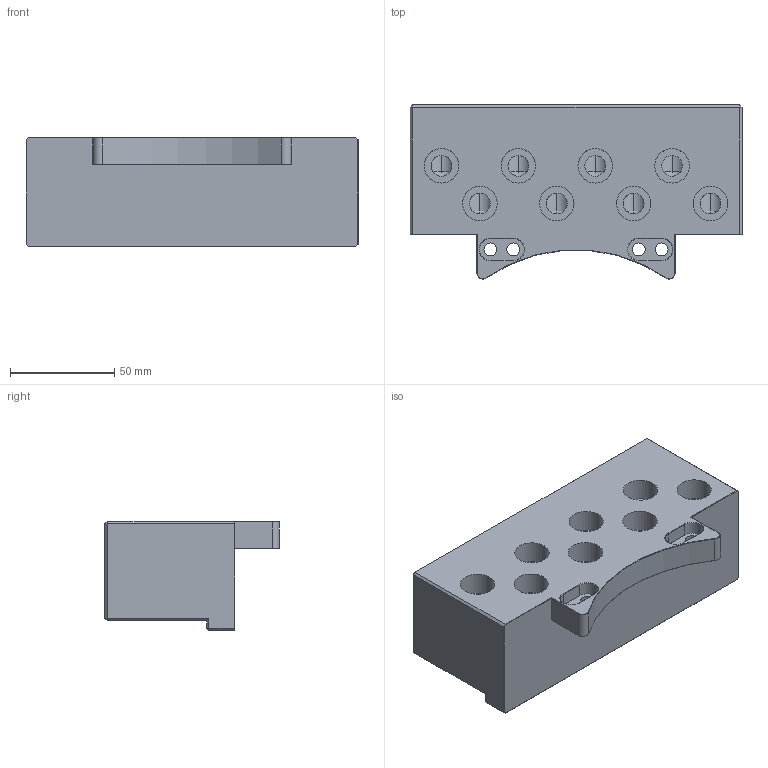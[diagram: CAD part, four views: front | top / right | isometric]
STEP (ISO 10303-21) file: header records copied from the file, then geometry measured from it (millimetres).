
FILE_DESCRIPTION (( 'STEP AP203' ), '1' );
FILE_NAME ('QCAM-08G38R.STEP', '2023-09-25T06:20:23', ( '' ), ( '' ), 'SwSTEP 2.0', 'SolidWorks 2018', '' );
FILE_SCHEMA (( 'CONFIG_CONTROL_DESIGN' ));
Length unit declared in the file: millimetre
Products named in the file (1): QCAM-08G38R
Bounding box: 159 x 83.38 x 52.2 mm (x, y, z)
Volume: 414851.5 mm3; surface area: 66386.3 mm2
Topology: 1 solids, 1 shells, 301 faces, 741 edges, 446 vertices
Faces by surface type: plane 114, cylinder 94, cone 68, bspline 23, sphere 2
Entity records: 13287 total; most frequent: CARTESIAN_POINT 6288, ORIENTED_EDGE 1442, DIRECTION 1384, EDGE_CURVE 721, AXIS2_PLACEMENT_3D 480, VERTEX_POINT 446, VECTOR 424, LINE 424
